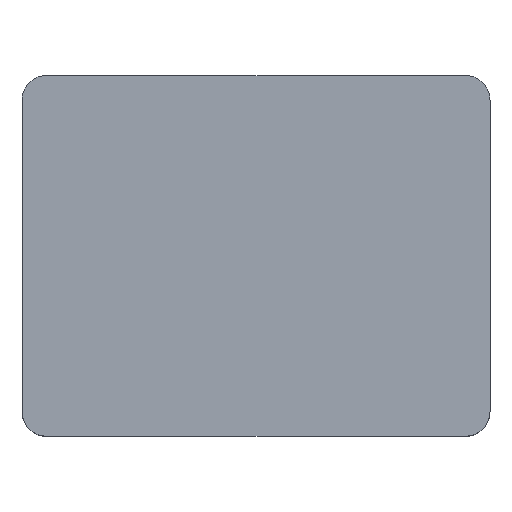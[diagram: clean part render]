
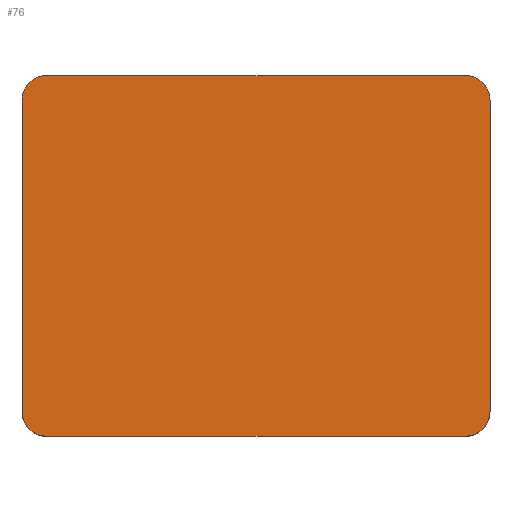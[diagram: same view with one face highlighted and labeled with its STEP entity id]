
A CAD part, top view. The second image highlights one B-rep face of the part: STEP entity #76.
In plain terms, the highlighted planar face has unit normal (0, 0, 1).
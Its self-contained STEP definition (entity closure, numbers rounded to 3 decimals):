
#76=ADVANCED_FACE('',(#138),#596,.T.);
#138=FACE_OUTER_BOUND('',#200,.F.);
#200=EDGE_LOOP('',(#273,#274,#275,#276,#277,#278,#279,#280));
#273=ORIENTED_EDGE('',*,*,#690,.F.);
#274=ORIENTED_EDGE('',*,*,#691,.F.);
#275=ORIENTED_EDGE('',*,*,#692,.F.);
#276=ORIENTED_EDGE('',*,*,#693,.F.);
#277=ORIENTED_EDGE('',*,*,#694,.F.);
#278=ORIENTED_EDGE('',*,*,#695,.F.);
#279=ORIENTED_EDGE('',*,*,#696,.F.);
#280=ORIENTED_EDGE('',*,*,#697,.F.);
#596=PLANE('',#1247);
#644=CIRCLE('',#1218,12.7);
#645=CIRCLE('',#1219,12.7);
#646=CIRCLE('',#1220,12.7);
#647=CIRCLE('',#1221,12.7);
#690=EDGE_CURVE('',#1191,#1190,#644,.T.);
#691=EDGE_CURVE('',#1189,#1191,#850,.T.);
#692=EDGE_CURVE('',#1188,#1189,#645,.T.);
#693=EDGE_CURVE('',#1187,#1188,#851,.T.);
#694=EDGE_CURVE('',#1186,#1187,#646,.T.);
#695=EDGE_CURVE('',#1185,#1186,#852,.T.);
#696=EDGE_CURVE('',#1184,#1185,#647,.T.);
#697=EDGE_CURVE('',#1190,#1184,#853,.T.);
#850=LINE('',#1765,#982);
#851=LINE('',#1767,#983);
#852=LINE('',#1769,#984);
#853=LINE('',#1771,#985);
#982=VECTOR('',#1337,159.6);
#983=VECTOR('',#1340,214.6);
#984=VECTOR('',#1343,159.6);
#985=VECTOR('',#1346,214.6);
#1184=VERTEX_POINT('',#1720);
#1185=VERTEX_POINT('',#1721);
#1186=VERTEX_POINT('',#1722);
#1187=VERTEX_POINT('',#1723);
#1188=VERTEX_POINT('',#1724);
#1189=VERTEX_POINT('',#1725);
#1190=VERTEX_POINT('',#1726);
#1191=VERTEX_POINT('',#1727);
#1218=AXIS2_PLACEMENT_3D('',#1764,#1335,#1336);
#1219=AXIS2_PLACEMENT_3D('',#1766,#1338,#1339);
#1220=AXIS2_PLACEMENT_3D('',#1768,#1341,#1342);
#1221=AXIS2_PLACEMENT_3D('',#1770,#1344,#1345);
#1247=AXIS2_PLACEMENT_3D('',#1913,#1513,#1514);
#1335=DIRECTION('',(0.,0.,1.));
#1336=DIRECTION('',(1.,0.,0.));
#1337=DIRECTION('',(0.,1.,0.));
#1338=DIRECTION('',(0.,0.,1.));
#1339=DIRECTION('',(0.,-1.,0.));
#1340=DIRECTION('',(1.,0.,0.));
#1341=DIRECTION('',(0.,0.,1.));
#1342=DIRECTION('',(-1.,0.,0.));
#1343=DIRECTION('',(0.,-1.,0.));
#1344=DIRECTION('',(0.,0.,1.));
#1345=DIRECTION('',(0.,1.,0.));
#1346=DIRECTION('',(-1.,0.,0.));
#1513=DIRECTION('',(0.,0.,1.));
#1514=DIRECTION('',(-1.,0.,0.));
#1720=CARTESIAN_POINT('',(1064.075,-41.68,49.95));
#1721=CARTESIAN_POINT('',(1051.375,-54.38,49.95));
#1722=CARTESIAN_POINT('',(1051.375,-213.98,49.95));
#1723=CARTESIAN_POINT('',(1064.075,-226.68,49.95));
#1724=CARTESIAN_POINT('',(1278.675,-226.68,49.95));
#1725=CARTESIAN_POINT('',(1291.375,-213.98,49.95));
#1726=CARTESIAN_POINT('',(1278.675,-41.68,49.95));
#1727=CARTESIAN_POINT('',(1291.375,-54.38,49.95));
#1764=CARTESIAN_POINT('',(1278.675,-54.38,49.95));
#1765=CARTESIAN_POINT('',(1291.375,-213.98,49.95));
#1766=CARTESIAN_POINT('',(1278.675,-213.98,49.95));
#1767=CARTESIAN_POINT('',(1064.075,-226.68,49.95));
#1768=CARTESIAN_POINT('',(1064.075,-213.98,49.95));
#1769=CARTESIAN_POINT('',(1051.375,-54.38,49.95));
#1770=CARTESIAN_POINT('',(1064.075,-54.38,49.95));
#1771=CARTESIAN_POINT('',(1278.675,-41.68,49.95));
#1913=CARTESIAN_POINT('',(1293.792,-39.263,49.95));
